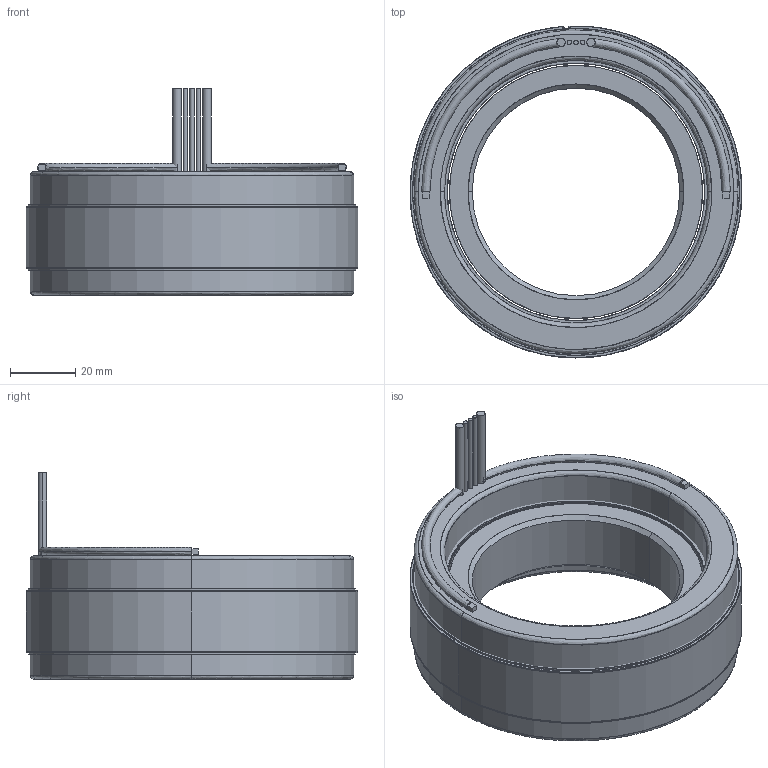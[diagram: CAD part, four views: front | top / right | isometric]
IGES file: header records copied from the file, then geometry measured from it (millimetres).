
Start section: SolidWorks IGES file using analytic representation for surfaces
Global section: file name: \\fs01.aveox.local\user documents\eng\My Documents\STANDARD STATOR ROTOR SETS\NEW DIRECT DRIVE MOTOR\4 OD 27S24P\6100339-02.IGS; native system: SolidWorks 2016; preprocessor: SolidWorks 2016; author: eng; date: 191023.141657; units: millimetre
Bounding box: 101.6 x 101.57 x 63.25 mm (x, y, z)
Surface area: 81885.5 mm2 (no closed solid volume)
Topology: 0 solids, 0 shells, 109 faces, 2502 edges, 2502 vertices
Faces by surface type: bspline 56, revolution 53
